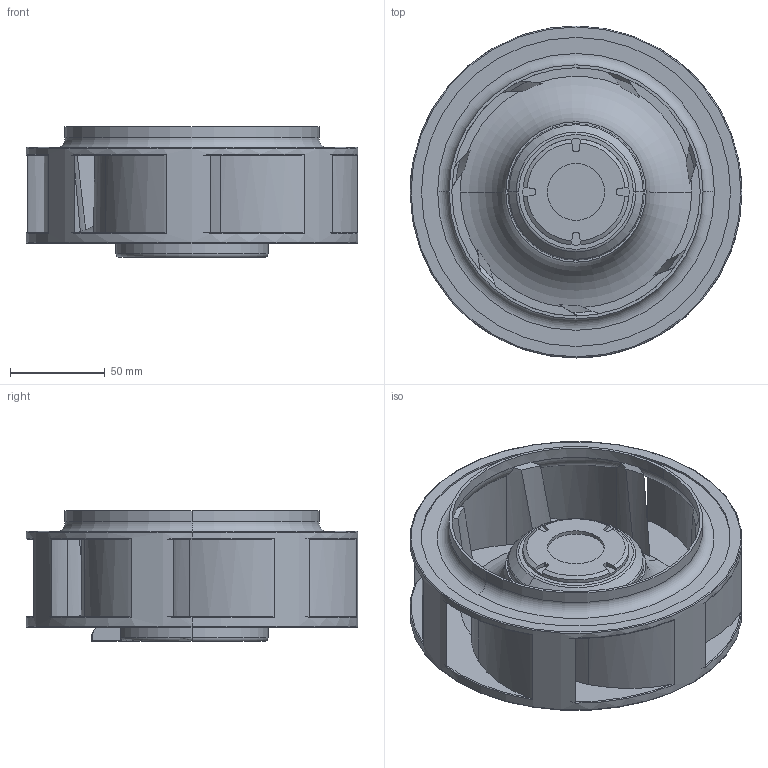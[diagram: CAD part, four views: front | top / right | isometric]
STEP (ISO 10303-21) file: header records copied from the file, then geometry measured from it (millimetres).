
FILE_DESCRIPTION (( 'STEP AP203' ), '1' );
FILE_NAME ('ƒÓ175x69_9TGA.STEP', '2016-12-15T02:52:02', ( '' ), ( '' ), 'SwSTEP 2.0', 'SolidWorks 2016', '' );
FILE_SCHEMA (( 'CONFIG_CONTROL_DESIGN' ));
Length unit declared in the file: millimetre
Products named in the file (1): φ175x69_9TGA
Bounding box: 175 x 175 x 69 mm (x, y, z)
Volume: 475653 mm3; surface area: 143535.1 mm2
Topology: 1 solids, 1 shells, 249 faces, 670 edges, 415 vertices
Faces by surface type: cylinder 86, plane 61, cone 52, torus 44, bspline 4, sphere 2
Entity records: 8623 total; most frequent: CARTESIAN_POINT 2371, DIRECTION 1338, ORIENTED_EDGE 1312, EDGE_CURVE 656, AXIS2_PLACEMENT_3D 562, VERTEX_POINT 415, CIRCLE 316, EDGE_LOOP 269
